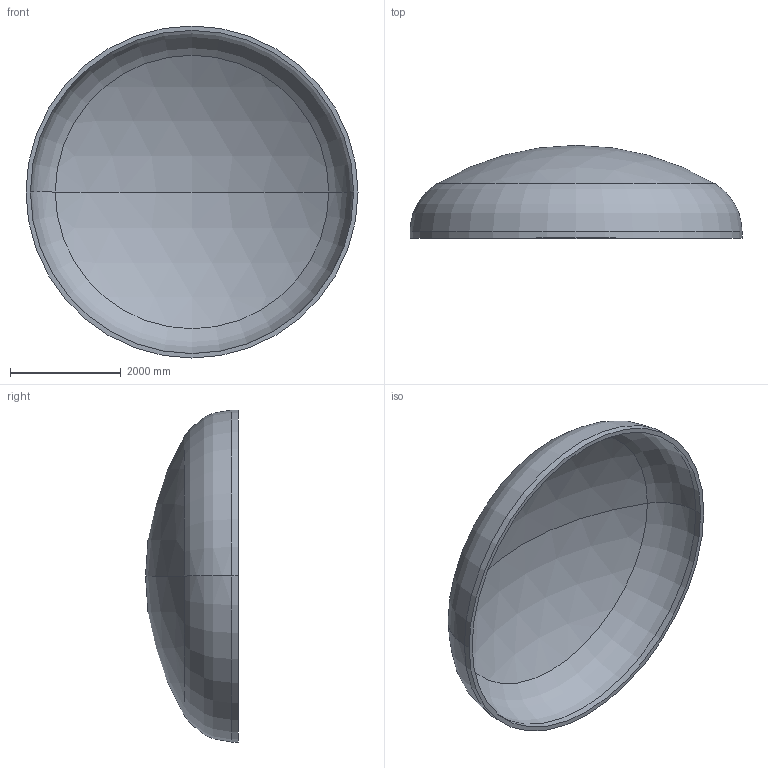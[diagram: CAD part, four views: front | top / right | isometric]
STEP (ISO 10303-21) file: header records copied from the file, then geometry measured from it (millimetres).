
FILE_DESCRIPTION (( 'STEP AP203' ), '1' );
FILE_NAME ('DIN 28013 Korbbogenform_-_Boden DIN 28013 - 6000 x 120 - I - s=80.step', '2016-07-04T10:38:14', ( '' ), ( '' ), 'SwSTEP 2.0', 'SolidWorks 2013', '' );
FILE_SCHEMA (( 'CONFIG_CONTROL_DESIGN' ));
Length unit declared in the file: millimetre
Products named in the file (1): DIN 28013 Korbbogenform_-_Boden DIN 28013 - 6000 x 120 - I - s=80
Bounding box: 6000 x 1678.01 x 6000 mm (x, y, z)
Volume: 3257243100.4 mm3; surface area: 82932309.5 mm2
Topology: 1 solids, 1 shells, 13 faces, 24 edges, 14 vertices
Faces by surface type: torus 4, cylinder 4, sphere 4, plane 1
Entity records: 407 total; most frequent: DIRECTION 72, CARTESIAN_POINT 52, ORIENTED_EDGE 48, AXIS2_PLACEMENT_3D 34, EDGE_CURVE 24, CIRCLE 20, VERTEX_POINT 14, EDGE_LOOP 14
